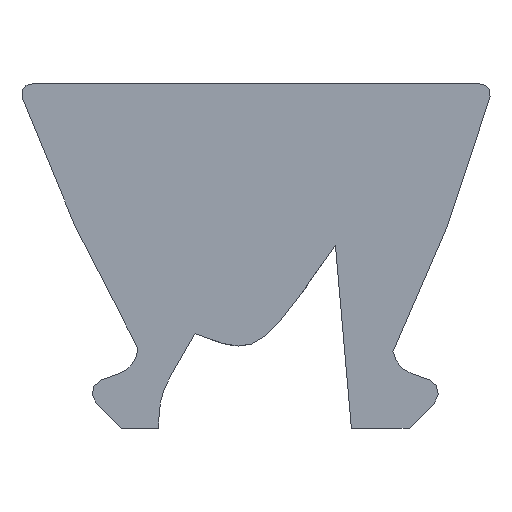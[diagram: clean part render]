
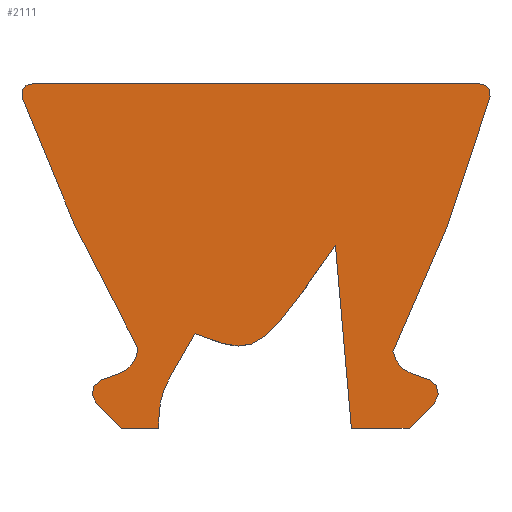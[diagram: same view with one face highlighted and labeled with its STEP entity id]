
A CAD part, front view. The second image highlights one B-rep face of the part: STEP entity #2111.
In plain terms, the highlighted planar face has unit normal (0, -1, 0).
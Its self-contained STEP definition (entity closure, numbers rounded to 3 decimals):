
#201=CARTESIAN_POINT(' ',(4.584,-280.,6.885));
#202=VERTEX_POINT(' ',#201);
#216=CARTESIAN_POINT(' ',(4.599,-280.,6.67));
#221=DIRECTION(' ',(0.,1.,0.));
#226=DIRECTION(' ',(-0.069,0.,0.998));
#231=AXIS2_PLACEMENT_3D(' ',#216,#221,#226);
#236=CIRCLE('',#231,0.215);
#241=CARTESIAN_POINT(' ',(4.803,-280.,6.605));
#242=VERTEX_POINT(' ',#241);
#246=EDGE_CURVE(' ',#202,#242,#236,.T.);
#1206=CARTESIAN_POINT(' ',(-4.979,-280.,6.885));
#1207=VERTEX_POINT(' ',#1206);
#1221=CARTESIAN_POINT(' ',(-4.979,-280.,6.885));
#1226=DIRECTION(' ',(1.,0.,0.));
#1231=VECTOR(' ',#1226,1.);
#1236=LINE('',#1221,#1231);
#1241=EDGE_CURVE(' ',#1207,#202,#1236,.T.);
#1271=DIRECTION(' ',(-0.,-1.,-0.));
#1276=CARTESIAN_POINT(' ',(-5.214,-280.,-0.477));
#1281=DIRECTION(' ',(1.,0.,-0.));
#1286=AXIS2_PLACEMENT_3D(' ',#1276,#1271,#1281);
#1291=PLANE('',#1286);
#1296=ORIENTED_EDGE(' ',*,*,#246,.F.);
#1301=ORIENTED_EDGE(' ',*,*,#1241,.F.);
#1306=CARTESIAN_POINT(' ',(-4.993,-280.,6.67));
#1311=DIRECTION(' ',(-0.,1.,0.));
#1316=DIRECTION(' ',(-0.948,0.,-0.318));
#1321=AXIS2_PLACEMENT_3D(' ',#1306,#1311,#1316);
#1326=CIRCLE('',#1321,0.215);
#1331=CARTESIAN_POINT(' ',(-5.197,-280.,6.602));
#1332=VERTEX_POINT(' ',#1331);
#1336=EDGE_CURVE(' ',#1332,#1207,#1326,.T.);
#1341=ORIENTED_EDGE(' ',*,*,#1336,.F.);
#1346=CARTESIAN_POINT(' ',(-5.194,-280.,6.596));
#1351=DIRECTION(' ',(-0.339,0.,0.941));
#1356=VECTOR(' ',#1351,1.);
#1361=LINE('',#1346,#1356);
#1366=CARTESIAN_POINT(' ',(-5.194,-280.,6.596));
#1367=VERTEX_POINT(' ',#1366);
#1371=EDGE_CURVE(' ',#1367,#1332,#1361,.T.);
#1376=ORIENTED_EDGE(' ',*,*,#1371,.F.);
#1381=CARTESIAN_POINT(' ',(-2.722,-280.,1.234));
#1386=CARTESIAN_POINT(' ',(-3.256,-280.,2.099));
#1391=CARTESIAN_POINT(' ',(-3.698,-280.,3.019));
#1396=CARTESIAN_POINT(' ',(-4.495,-280.,4.82));
#1401=CARTESIAN_POINT(' ',(-4.851,-280.,5.706));
#1406=CARTESIAN_POINT(' ',(-5.194,-280.,6.596));
#1411=B_SPLINE_CURVE_WITH_KNOTS('',3,(#1381,#1386,#1391,#1396,#1401,#1406),.UNSPECIFIED.,.F.,.U.,(4,2,4),(0.,0.516,1.),.UNSPECIFIED.);
#1416=CARTESIAN_POINT(' ',(-2.722,-280.,1.234));
#1417=VERTEX_POINT(' ',#1416);
#1421=EDGE_CURVE(' ',#1417,#1367,#1411,.T.);
#1426=ORIENTED_EDGE(' ',*,*,#1421,.F.);
#1431=CARTESIAN_POINT(' ',(-3.322,-280.,1.259));
#1436=DIRECTION(' ',(-0.,-1.,0.));
#1441=DIRECTION(' ',(0.342,0.,-0.94));
#1446=AXIS2_PLACEMENT_3D(' ',#1431,#1436,#1441);
#1451=CIRCLE('',#1446,0.6);
#1456=CARTESIAN_POINT(' ',(-3.117,-280.,0.695));
#1457=VERTEX_POINT(' ',#1456);
#1461=EDGE_CURVE(' ',#1457,#1417,#1451,.T.);
#1466=ORIENTED_EDGE(' ',*,*,#1461,.F.);
#1471=CARTESIAN_POINT(' ',(-3.503,-280.,0.555));
#1476=DIRECTION(' ',(0.94,0.,0.342));
#1481=VECTOR(' ',#1476,1.);
#1486=LINE('',#1471,#1481);
#1491=CARTESIAN_POINT(' ',(-3.503,-280.,0.555));
#1492=VERTEX_POINT(' ',#1491);
#1496=EDGE_CURVE(' ',#1492,#1457,#1486,.T.);
#1501=ORIENTED_EDGE(' ',*,*,#1496,.F.);
#1506=CARTESIAN_POINT(' ',(-3.4,-280.,0.273));
#1511=DIRECTION(' ',(-0.,1.,0.));
#1516=DIRECTION(' ',(-0.707,0.,-0.707));
#1521=AXIS2_PLACEMENT_3D(' ',#1506,#1511,#1516);
#1526=CIRCLE('',#1521,0.3);
#1531=CARTESIAN_POINT(' ',(-3.612,-280.,0.061));
#1532=VERTEX_POINT(' ',#1531);
#1536=EDGE_CURVE(' ',#1532,#1492,#1526,.T.);
#1541=ORIENTED_EDGE(' ',*,*,#1536,.F.);
#1546=CARTESIAN_POINT(' ',(-3.074,-280.,-0.477));
#1551=DIRECTION(' ',(-0.707,0.,0.707));
#1556=VECTOR(' ',#1551,1.);
#1561=LINE('',#1546,#1556);
#1566=CARTESIAN_POINT(' ',(-3.074,-280.,-0.477));
#1567=VERTEX_POINT(' ',#1566);
#1571=EDGE_CURVE(' ',#1567,#1532,#1561,.T.);
#1576=ORIENTED_EDGE(' ',*,*,#1571,.F.);
#1581=CARTESIAN_POINT(' ',(-2.277,-280.,-0.477));
#1586=DIRECTION(' ',(-1.,0.,0.));
#1591=VECTOR(' ',#1586,1.);
#1596=LINE('',#1581,#1591);
#1601=CARTESIAN_POINT(' ',(-2.277,-280.,-0.477));
#1602=VERTEX_POINT(' ',#1601);
#1606=EDGE_CURVE(' ',#1602,#1567,#1596,.T.);
#1611=ORIENTED_EDGE(' ',*,*,#1606,.F.);
#1616=CARTESIAN_POINT(' ',(-2.267,-280.,-0.187));
#1621=DIRECTION(' ',(-0.033,0.,-0.999));
#1626=VECTOR(' ',#1621,1.);
#1631=LINE('',#1616,#1626);
#1636=CARTESIAN_POINT(' ',(-2.267,-280.,-0.187));
#1637=VERTEX_POINT(' ',#1636);
#1641=EDGE_CURVE(' ',#1637,#1602,#1631,.T.);
#1646=ORIENTED_EDGE(' ',*,*,#1641,.F.);
#1651=CARTESIAN_POINT(' ',(-0.581,-280.,-0.244));
#1656=DIRECTION(' ',(0.,-1.,-0.));
#1661=DIRECTION(' ',(-0.866,0.,0.5));
#1666=AXIS2_PLACEMENT_3D(' ',#1651,#1656,#1661);
#1671=CIRCLE('',#1666,1.687);
#1676=CARTESIAN_POINT(' ',(-2.042,-280.,0.6));
#1677=VERTEX_POINT(' ',#1676);
#1681=EDGE_CURVE(' ',#1677,#1637,#1671,.T.);
#1686=ORIENTED_EDGE(' ',*,*,#1681,.F.);
#1691=CARTESIAN_POINT(' ',(-1.499,-280.,1.542));
#1696=DIRECTION(' ',(-0.5,0.,-0.866));
#1701=VECTOR(' ',#1696,1.);
#1706=LINE('',#1691,#1701);
#1711=CARTESIAN_POINT(' ',(-1.499,-280.,1.542));
#1712=VERTEX_POINT(' ',#1711);
#1716=EDGE_CURVE(' ',#1712,#1677,#1706,.T.);
#1721=ORIENTED_EDGE(' ',*,*,#1716,.F.);
#1726=CARTESIAN_POINT(' ',(0.,-280.,1.5));
#1731=CARTESIAN_POINT(' ',(-0.138,-280.,1.376));
#1736=CARTESIAN_POINT(' ',(-0.326,-280.,1.29));
#1741=CARTESIAN_POINT(' ',(-0.704,-280.,1.272));
#1746=CARTESIAN_POINT(' ',(-0.894,-280.,1.326));
#1751=CARTESIAN_POINT(' ',(-1.219,-280.,1.433));
#1756=CARTESIAN_POINT(' ',(-1.357,-280.,1.479));
#1761=CARTESIAN_POINT(' ',(-1.499,-280.,1.542));
#1766=B_SPLINE_CURVE_WITH_KNOTS('',3,(#1726,#1731,#1736,#1741,#1746,#1751,#1756,#1761),.UNSPECIFIED.,.F.,.U.,(4,2,2,4),(0.,0.358,0.717,1.),.UNSPECIFIED.);
#1771=CARTESIAN_POINT(' ',(0.,-280.,1.5));
#1772=VERTEX_POINT(' ',#1771);
#1776=EDGE_CURVE(' ',#1772,#1712,#1766,.T.);
#1781=ORIENTED_EDGE(' ',*,*,#1776,.F.);
#1786=CARTESIAN_POINT(' ',(1.5,-280.,3.434));
#1791=CARTESIAN_POINT(' ',(1.152,-280.,2.935));
#1796=CARTESIAN_POINT(' ',(0.81,-280.,2.433));
#1801=CARTESIAN_POINT(' ',(0.297,-280.,1.796));
#1806=CARTESIAN_POINT(' ',(0.159,-280.,1.637));
#1811=CARTESIAN_POINT(' ',(0.,-280.,1.5));
#1816=B_SPLINE_CURVE_WITH_KNOTS('',3,(#1786,#1791,#1796,#1801,#1806,#1811),.UNSPECIFIED.,.F.,.U.,(4,2,4),(0.,0.743,1.),.UNSPECIFIED.);
#1821=CARTESIAN_POINT(' ',(1.5,-280.,3.434));
#1822=VERTEX_POINT(' ',#1821);
#1826=EDGE_CURVE(' ',#1822,#1772,#1816,.T.);
#1831=ORIENTED_EDGE(' ',*,*,#1826,.F.);
#1836=CARTESIAN_POINT(' ',(1.842,-280.,-0.477));
#1841=DIRECTION(' ',(-0.087,0.,0.996));
#1846=VECTOR(' ',#1841,1.);
#1851=LINE('',#1836,#1846);
#1856=CARTESIAN_POINT(' ',(1.842,-280.,-0.477));
#1857=VERTEX_POINT(' ',#1856);
#1861=EDGE_CURVE(' ',#1857,#1822,#1851,.T.);
#1866=ORIENTED_EDGE(' ',*,*,#1861,.F.);
#1871=CARTESIAN_POINT(' ',(3.074,-280.,-0.477));
#1876=DIRECTION(' ',(-1.,0.,0.));
#1881=VECTOR(' ',#1876,1.);
#1886=LINE('',#1871,#1881);
#1891=CARTESIAN_POINT(' ',(3.074,-280.,-0.477));
#1892=VERTEX_POINT(' ',#1891);
#1896=EDGE_CURVE(' ',#1892,#1857,#1886,.T.);
#1901=ORIENTED_EDGE(' ',*,*,#1896,.F.);
#1906=CARTESIAN_POINT(' ',(3.612,-280.,0.061));
#1911=DIRECTION(' ',(-0.707,0.,-0.707));
#1916=VECTOR(' ',#1911,1.);
#1921=LINE('',#1906,#1916);
#1926=CARTESIAN_POINT(' ',(3.612,-280.,0.061));
#1927=VERTEX_POINT(' ',#1926);
#1931=EDGE_CURVE(' ',#1927,#1892,#1921,.T.);
#1936=ORIENTED_EDGE(' ',*,*,#1931,.F.);
#1941=CARTESIAN_POINT(' ',(3.4,-280.,0.273));
#1946=DIRECTION(' ',(0.,1.,0.));
#1951=DIRECTION(' ',(0.342,0.,0.94));
#1956=AXIS2_PLACEMENT_3D(' ',#1941,#1946,#1951);
#1961=CIRCLE('',#1956,0.3);
#1966=CARTESIAN_POINT(' ',(3.503,-280.,0.555));
#1967=VERTEX_POINT(' ',#1966);
#1971=EDGE_CURVE(' ',#1967,#1927,#1961,.T.);
#1976=ORIENTED_EDGE(' ',*,*,#1971,.F.);
#1981=CARTESIAN_POINT(' ',(3.117,-280.,0.695));
#1986=DIRECTION(' ',(0.94,0.,-0.342));
#1991=VECTOR(' ',#1986,1.);
#1996=LINE('',#1981,#1991);
#2001=CARTESIAN_POINT(' ',(3.117,-280.,0.695));
#2002=VERTEX_POINT(' ',#2001);
#2006=EDGE_CURVE(' ',#2002,#1967,#1996,.T.);
#2011=ORIENTED_EDGE(' ',*,*,#2006,.F.);
#2016=CARTESIAN_POINT(' ',(3.322,-280.,1.259));
#2021=DIRECTION(' ',(0.,-1.,0.));
#2026=DIRECTION(' ',(-0.986,0.,-0.165));
#2031=AXIS2_PLACEMENT_3D(' ',#2016,#2021,#2026);
#2036=CIRCLE('',#2031,0.6);
#2041=CARTESIAN_POINT(' ',(2.73,-280.,1.16));
#2042=VERTEX_POINT(' ',#2041);
#2046=EDGE_CURVE(' ',#2042,#2002,#2036,.T.);
#2051=ORIENTED_EDGE(' ',*,*,#2046,.F.);
#2056=CARTESIAN_POINT(' ',(4.803,-280.,6.605));
#2061=CARTESIAN_POINT(' ',(4.381,-280.,5.223));
#2066=CARTESIAN_POINT(' ',(3.936,-280.,3.846));
#2071=CARTESIAN_POINT(' ',(3.177,-280.,2.054));
#2076=CARTESIAN_POINT(' ',(2.967,-280.,1.6));
#2081=CARTESIAN_POINT(' ',(2.73,-280.,1.16));
#2086=B_SPLINE_CURVE_WITH_KNOTS('',3,(#2056,#2061,#2066,#2071,#2076,#2081),.UNSPECIFIED.,.F.,.U.,(4,2,4),(0.,0.743,1.),.UNSPECIFIED.);
#2091=EDGE_CURVE(' ',#242,#2042,#2086,.T.);
#2096=ORIENTED_EDGE(' ',*,*,#2091,.F.);
#2101=EDGE_LOOP(' ',(#1296,#1301,#1341,#1376,#1426,#1466,#1501,#1541,#1576,#1611,#1646,#1686,#1721,#1781,#1831,#1866,#1901,#1936,#1976,#2011,#2051,#2096));
#2106=FACE_OUTER_BOUND(' ',#2101,.T.);
#2111=ADVANCED_FACE('',(#2106),#1291,.T.);
